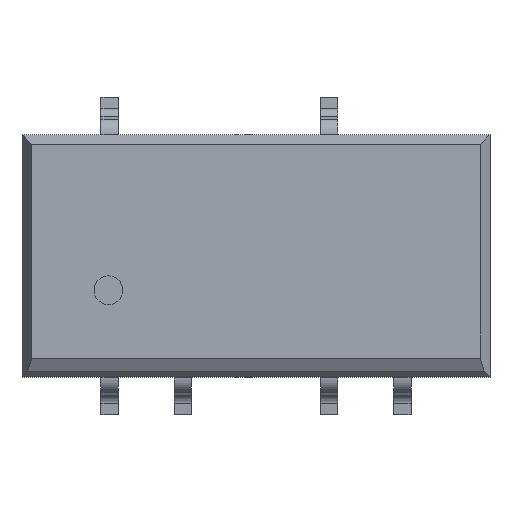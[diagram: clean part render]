
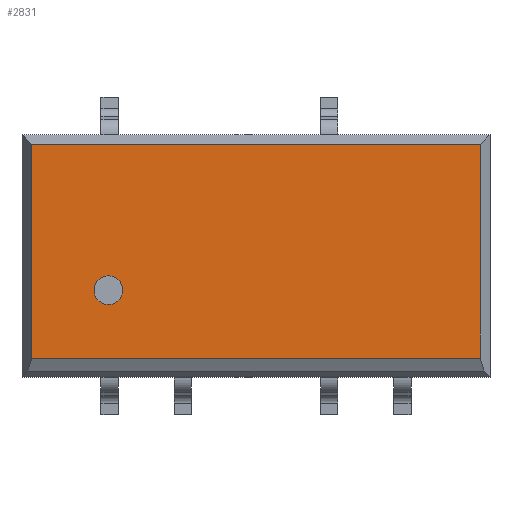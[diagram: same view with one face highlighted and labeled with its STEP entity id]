
A CAD part, top view. The second image highlights one B-rep face of the part: STEP entity #2831.
In plain terms, the highlighted planar face has unit normal (0, 0, 1).
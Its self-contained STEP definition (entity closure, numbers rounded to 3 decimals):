
#90=CIRCLE('',#3031,0.5);
#111=FACE_BOUND('',#426,.T.);
#257=FACE_OUTER_BOUND('',#425,.T.);
#425=EDGE_LOOP('',(#2395,#2396,#2397,#2398));
#426=EDGE_LOOP('',(#2399));
#738=LINE('',#4504,#1055);
#741=LINE('',#4510,#1058);
#742=LINE('',#4513,#1059);
#743=LINE('',#4514,#1060);
#1055=VECTOR('',#3740,7.407);
#1058=VECTOR('',#3747,15.547);
#1059=VECTOR('',#3750,15.547);
#1060=VECTOR('',#3751,7.407);
#1298=VERTEX_POINT('',#4491);
#1301=VERTEX_POINT('',#4499);
#1302=VERTEX_POINT('',#4502);
#1303=VERTEX_POINT('',#4508);
#1304=VERTEX_POINT('',#4512);
#1660=EDGE_CURVE('',#1298,#1298,#90,.T.);
#1666=EDGE_CURVE('',#1302,#1301,#738,.T.);
#1669=EDGE_CURVE('',#1303,#1302,#741,.T.);
#1670=EDGE_CURVE('',#1301,#1304,#742,.T.);
#1671=EDGE_CURVE('',#1304,#1303,#743,.T.);
#2395=ORIENTED_EDGE('',*,*,#1670,.F.);
#2396=ORIENTED_EDGE('',*,*,#1666,.F.);
#2397=ORIENTED_EDGE('',*,*,#1669,.F.);
#2398=ORIENTED_EDGE('',*,*,#1671,.F.);
#2399=ORIENTED_EDGE('',*,*,#1660,.T.);
#2532=PLANE('',#3036);
#2831=ADVANCED_FACE('',(#257,#111),#2532,.T.);
#3031=AXIS2_PLACEMENT_3D('',#4492,#3729,#3730);
#3036=AXIS2_PLACEMENT_3D('',#4511,#3748,#3749);
#3729=DIRECTION('center_axis',(0.,0.,-1.));
#3730=DIRECTION('ref_axis',(-1.,0.,0.));
#3740=DIRECTION('',(0.,-1.,0.));
#3747=DIRECTION('',(1.,0.,0.));
#3748=DIRECTION('center_axis',(0.,0.,1.));
#3749=DIRECTION('ref_axis',(1.,0.,0.));
#3750=DIRECTION('',(-1.,0.,0.));
#3751=DIRECTION('',(0.,1.,0.));
#4491=CARTESIAN_POINT('',(-4.62,-1.2,6.85));
#4492=CARTESIAN_POINT('Origin',(-5.12,-1.2,6.85));
#4499=CARTESIAN_POINT('',(7.774,-3.554,6.85));
#4502=CARTESIAN_POINT('',(7.774,3.854,6.85));
#4504=CARTESIAN_POINT('',(7.774,2.1,6.85));
#4508=CARTESIAN_POINT('',(-7.774,3.854,6.85));
#4510=CARTESIAN_POINT('',(-4.06,3.854,6.85));
#4511=CARTESIAN_POINT('Origin',(0.,0.,6.85));
#4512=CARTESIAN_POINT('',(-7.774,-3.554,6.85));
#4513=CARTESIAN_POINT('',(2.03,-3.554,6.85));
#4514=CARTESIAN_POINT('',(-7.774,-2.1,6.85));
